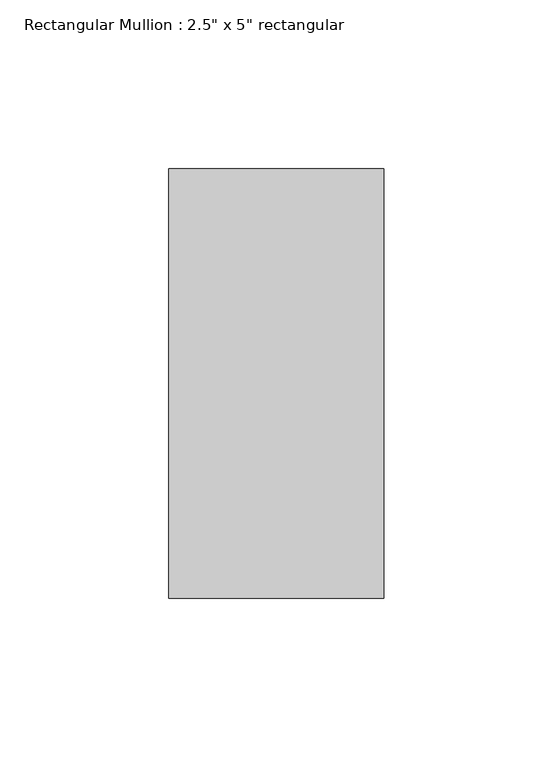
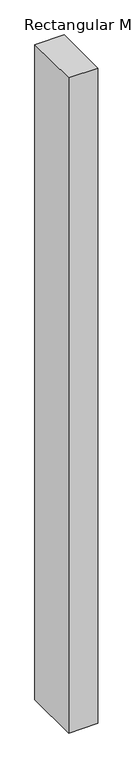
"""IFC4 building model written with IfcOpenShell, lengths in millimetres: member geometry."""

from ifc_helpers import new_model, si_unit, frame, origin, place, context, project, spatial, polyline, outline, extrude, source, transform, mapped, element, save


def member_131a91bd(model_context):
    return source(origin(), model_context, "Body", "SweptSolid", [
        extrude(outline(polyline([(0.0, 63.5), (0.0, -63.5), (-63.5, -63.5), (-63.5, 63.5), (0.0, 63.5)])), frame((0.0, 0.0, -1509.8888889), z_axis=(0.0, 0.0, 1.0), x_axis=(1.0, 0.0, 0.0)), (0.0, 0.0, 1.0), 1509.8888889),
    ])


if __name__ == "__main__":
    model = new_model("IFC4")
    model_context = context("Model", 3, world=origin())
    ifc_project = project(units=[si_unit("LENGTHUNIT", "METRE", prefix="MILLI")], contexts=[model_context])
    site = spatial("IfcSite", under=ifc_project)
    building = spatial("IfcBuilding", under=site)
    placement = place(None, origin())
    member_shape = member_131a91bd(model_context)
    element("IfcMember", 1, ObjectType="Rectangular Mullion : 2.5\" x 5\" rectangular", at=placement, inside=building, context=model_context, shape_type="MappedRepresentation", body=[
        mapped(member_shape, transform((0.0, 0.0, 0.0), x_axis=(1.0, 0.0, 0.0), y_axis=(0.0, 1.0, 0.0), z_axis=(0.0, 0.0, 1.0))),
    ])
    save(model, "model.ifc")
